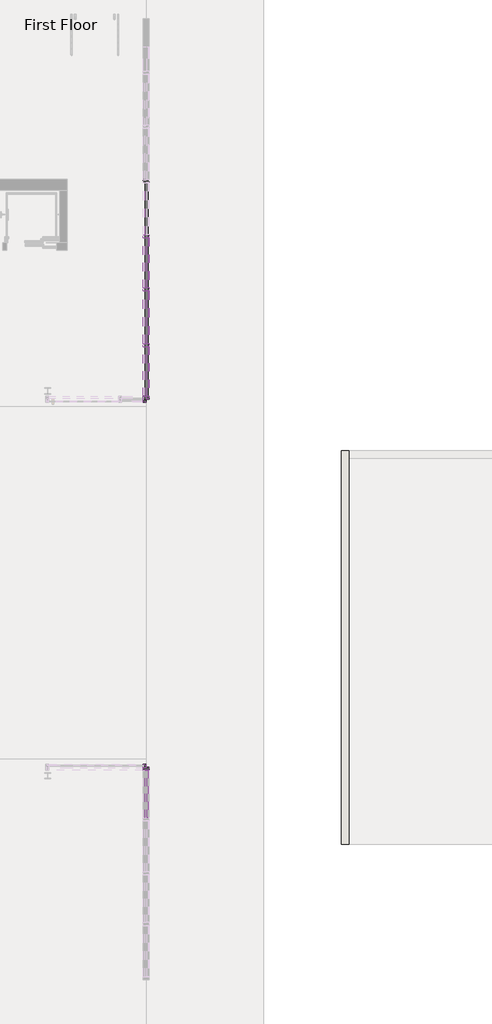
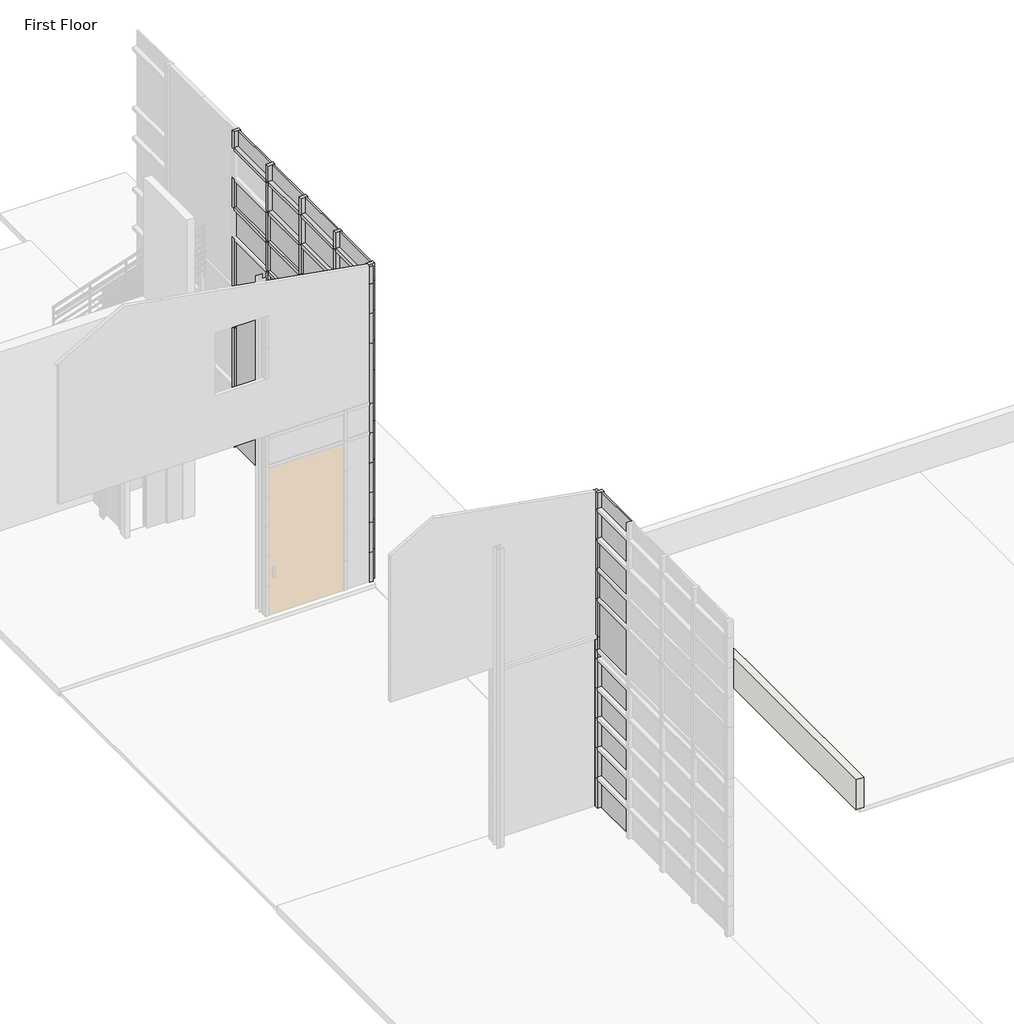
# One storey, part 7 of 9: 81 members, 31 plates, 1 wall.
"""IFC4 building model written with IfcOpenShell, lengths in millimetres."""

from ifc_helpers import new_model, si_unit, origin, place, context, project, spatial, faceted_brep, transform, mapped, element, save
from components import rectangular_mullion_rectangular_mullion_1_92345d6c, rectangular_mullion_rectangular_mullion_1_1b5fb080, rectangular_mullion_rectangular_mullion_1_005b3240, rectangular_mullion_rectangular_mullion_1_a5d18ad9, rectangular_mullion_rectangular_mullion_1_b6725e6c, rectangular_mullion_rectangular_mullion_1_857a2d2f, rectangular_mullion_rectangular_mullion_1_8c062b62, rectangular_mullion_rectangular_mullion_1_8a9972a7, rectangular_mullion_rectangular_mullion_1_0c9537f6, rectangular_mullion_rectangular_mullion_1_92001cf6, rectangular_mullion_rectangular_mullion_1_4e56fbd5, rectangular_mullion_rectangular_mullion_1_8c79227d, rectangular_mullion_rectangular_mullion_1_871cc721, rectangular_mullion_rectangular_mullion_1_1cede359, rectangular_mullion_rectangular_mullion_1_2b49869a, rectangular_mullion_rectangular_mullion_1_6e77e263, rectangular_mullion_rectangular_mullion_1_47bfaf8a, rectangular_mullion_rectangular_mullion_1_8ba1deb4, rectangular_mullion_rectangular_mullion_1_02b6d1f6, rectangular_mullion_rectangular_mullion_1_448be1d6, rectangular_mullion_rectangular_mullion_1_75074519, rectangular_mullion_rectangular_mullion_1_239af10d, system_panel_glazed_ad6731cb, system_panel_glazed_1dde7ef2, system_panel_glazed_8867470d, system_panel_glazed_5c61df2e, system_panel_glazed_041fdfaf, system_panel_glazed_9e465c3d, system_panel_glazed_ae41f1da, system_panel_glazed_664bf825, system_panel_glazed_7b94d85b, system_panel_glazed_cd8bb020, system_panel_glazed_b0dd7fbc, system_panel_solid_white_78c88414, system_panel_solid_white_2246336a, system_panel_solid_white_0ba96157, system_panel_solid_white_3c1d9ba8, system_panel_solid_white_dc60b1bb, system_panel_solid_white_98641b7f, system_panel_solid_white_af15567d, system_panel_wood_6bb835ee, system_panel_wood_cbf360d3, system_panel_wood_be4c5c0b, system_panel_wood_713b1532

model = new_model("IFC4")

# Units and contexts
model_context = context("Model", 3, world=origin())
ifc_project = project(units=[si_unit("LENGTHUNIT", "METRE", prefix="MILLI")], contexts=[model_context])

# Site, building, storey
site = spatial("IfcSite", under=ifc_project)
building = spatial("IfcBuilding", under=site)
storey = spatial("IfcBuildingStorey", under=building, Name="First Floor", Elevation=0.0)

# Members
placement = place(None, origin())
rectangular_mullion_rectangular_mullion_1_shape = rectangular_mullion_rectangular_mullion_1_92345d6c(model_context)
element("IfcMember", 1, ObjectType="Rectangular Mullion : Rectangular Mullion 1", at=placement, inside=storey, context=model_context, shape_type="MappedRepresentation", body=[
    mapped(rectangular_mullion_rectangular_mullion_1_shape, transform((8.2598336, 26645.6784583, 3192.0391834), x_axis=(0.0, 1.0, 0.0), y_axis=(1.0, 0.0, 0.0), z_axis=(0.0, 0.0, -1.0))),
])
element("IfcMember", 2, ObjectType="Rectangular Mullion : Rectangular Mullion 1", at=placement, inside=storey, context=model_context, shape_type="MappedRepresentation", body=[
    mapped(rectangular_mullion_rectangular_mullion_1_shape, transform((8.2598336, 25489.3434583, 3192.0391834), x_axis=(0.0, 1.0, 0.0), y_axis=(1.0, 0.0, 0.0), z_axis=(0.0, 0.0, -1.0))),
])
element("IfcMember", 3, ObjectType="Rectangular Mullion : Rectangular Mullion 1", at=placement, inside=storey, context=model_context, shape_type="MappedRepresentation", body=[
    mapped(rectangular_mullion_rectangular_mullion_1_shape, transform((8.2598336, 27741.6884583, 3192.0391834), x_axis=(0.0, 1.0, 0.0), y_axis=(1.0, 0.0, 0.0), z_axis=(0.0, 0.0, -1.0))),
])
rectangular_mullion_rectangular_mullion_1_2_shape = rectangular_mullion_rectangular_mullion_1_1b5fb080(model_context)
element("IfcMember", 4, ObjectType="Rectangular Mullion : Rectangular Mullion 1", at=placement, inside=storey, context=model_context, shape_type="MappedRepresentation", body=[
    mapped(rectangular_mullion_rectangular_mullion_1_2_shape, transform((8.2598336, 28888.4984583, 3223.7891834), x_axis=(0.0, 1.0, 0.0), y_axis=(1.0, 0.0, 0.0), z_axis=(0.0, 0.0, -1.0))),
])
rectangular_mullion_rectangular_mullion_1_3_shape = rectangular_mullion_rectangular_mullion_1_005b3240(model_context)
element("IfcMember", 5, ObjectType="Rectangular Mullion : Rectangular Mullion 1", at=placement, inside=storey, context=model_context, shape_type="MappedRepresentation", body=[
    mapped(rectangular_mullion_rectangular_mullion_1_3_shape, transform((8.2598336, 25489.3434583, 6096.0), x_axis=(0.0, 1.0, 0.0), y_axis=(1.0, 0.0, 0.0), z_axis=(0.0, 0.0, -1.0))),
])
element("IfcMember", 6, ObjectType="Rectangular Mullion : Rectangular Mullion 1", at=placement, inside=storey, context=model_context, shape_type="MappedRepresentation", body=[
    mapped(rectangular_mullion_rectangular_mullion_1_3_shape, transform((8.2598336, 26645.6784583, 6096.0), x_axis=(0.0, 1.0, 0.0), y_axis=(1.0, 0.0, 0.0), z_axis=(0.0, 0.0, -1.0))),
])
element("IfcMember", 7, ObjectType="Rectangular Mullion : Rectangular Mullion 1", at=placement, inside=storey, context=model_context, shape_type="MappedRepresentation", body=[
    mapped(rectangular_mullion_rectangular_mullion_1_3_shape, transform((8.2598336, 27741.6884583, 6096.0), x_axis=(0.0, 1.0, 0.0), y_axis=(1.0, 0.0, 0.0), z_axis=(0.0, 0.0, -1.0))),
])
element("IfcMember", 8, ObjectType="Rectangular Mullion : Rectangular Mullion 1", at=placement, inside=storey, context=model_context, shape_type="MappedRepresentation", body=[
    mapped(rectangular_mullion_rectangular_mullion_1_3_shape, transform((8.2598336, 28888.4984583, 6096.0), x_axis=(0.0, 1.0, 0.0), y_axis=(1.0, 0.0, 0.0), z_axis=(0.0, 0.0, -1.0))),
])
rectangular_mullion_rectangular_mullion_1_4_shape = rectangular_mullion_rectangular_mullion_1_a5d18ad9(model_context)
element("IfcMember", 9, ObjectType="Rectangular Mullion : Rectangular Mullion 1", at=placement, inside=storey, context=model_context, shape_type="MappedRepresentation", body=[
    mapped(rectangular_mullion_rectangular_mullion_1_4_shape, transform((8.2598336, 28888.4984583, 2438.4), x_axis=(0.0, 1.0, 0.0), y_axis=(1.0, 0.0, 0.0), z_axis=(0.0, 0.0, -1.0))),
])
rectangular_mullion_rectangular_mullion_1_5_shape = rectangular_mullion_rectangular_mullion_1_b6725e6c(model_context)
element("IfcMember", 10, ObjectType="Rectangular Mullion : Rectangular Mullion 1", at=placement, inside=storey, context=model_context, shape_type="MappedRepresentation", body=[
    mapped(rectangular_mullion_rectangular_mullion_1_5_shape, transform((8.2598336, 24371.1084583, 3223.7891834), x_axis=(0.0, -1.0, 0.0), y_axis=(1.0, 0.0, 0.0), z_axis=(0.0, 0.0, 1.0))),
])
rectangular_mullion_rectangular_mullion_1_6_shape = rectangular_mullion_rectangular_mullion_1_857a2d2f(model_context)
element("IfcMember", 11, ObjectType="Rectangular Mullion : Rectangular Mullion 1", at=placement, inside=storey, context=model_context, shape_type="MappedRepresentation", body=[
    mapped(rectangular_mullion_rectangular_mullion_1_6_shape, transform((8.2598336, 24371.1084583, 6447.5783668), x_axis=(0.0, -1.0, 0.0), y_axis=(1.0, 0.0, 0.0), z_axis=(0.0, 0.0, 1.0))),
])
rectangular_mullion_rectangular_mullion_1_7_shape = rectangular_mullion_rectangular_mullion_1_8c062b62(model_context)
element("IfcMember", 12, ObjectType="Rectangular Mullion : Rectangular Mullion 1", at=placement, inside=storey, context=model_context, shape_type="MappedRepresentation", body=[
    mapped(rectangular_mullion_rectangular_mullion_1_7_shape, transform((8.2598336, 24371.1084583, 4267.2), x_axis=(0.0, -1.0, 0.0), y_axis=(1.0, 0.0, 0.0), z_axis=(0.0, 0.0, 1.0))),
])
element("IfcMember", 13, ObjectType="Rectangular Mullion : Rectangular Mullion 1", at=placement, inside=storey, context=model_context, shape_type="MappedRepresentation", body=[
    mapped(rectangular_mullion_rectangular_mullion_1_6_shape, transform((8.2598336, 24371.1084583, 6096.0), x_axis=(1.0, 0.0, 0.0), y_axis=(0.0, -1.0, 0.0), z_axis=(0.0, 0.0, -1.0))),
])
rectangular_mullion_rectangular_mullion_1_8_shape = rectangular_mullion_rectangular_mullion_1_8a9972a7(model_context)
element("IfcMember", 14, ObjectType="Rectangular Mullion : Rectangular Mullion 1", at=placement, inside=storey, context=model_context, shape_type="MappedRepresentation", body=[
    mapped(rectangular_mullion_rectangular_mullion_1_8_shape, transform((8.2598336, 24371.1084583, 3048.0), x_axis=(1.0, 0.0, 0.0), y_axis=(0.0, -1.0, 0.0), z_axis=(0.0, 0.0, -1.0))),
])
rectangular_mullion_rectangular_mullion_1_9_shape = rectangular_mullion_rectangular_mullion_1_0c9537f6(model_context)
element("IfcMember", 15, ObjectType="Rectangular Mullion : Rectangular Mullion 1", at=placement, inside=storey, context=model_context, shape_type="MappedRepresentation", body=[
    mapped(rectangular_mullion_rectangular_mullion_1_9_shape, transform((8.2598336, 24371.1084583, 3647.5475583), x_axis=(1.0, 0.0, 0.0), y_axis=(0.0, -1.0, 0.0), z_axis=(0.0, 0.0, -1.0))),
])
rectangular_mullion_rectangular_mullion_1_10_shape = rectangular_mullion_rectangular_mullion_1_92001cf6(model_context)
element("IfcMember", 16, ObjectType="Rectangular Mullion : Rectangular Mullion 1", at=placement, inside=storey, context=model_context, shape_type="MappedRepresentation", body=[
    mapped(rectangular_mullion_rectangular_mullion_1_10_shape, transform((8.2598336, 16751.1084583, 3501.4973635), x_axis=(1.0, 0.0, 0.0), y_axis=(0.0, -1.0, 0.0), z_axis=(0.0, 0.0, -1.0))),
])
rectangular_mullion_rectangular_mullion_1_11_shape = rectangular_mullion_rectangular_mullion_1_4e56fbd5(model_context)
element("IfcMember", 17, ObjectType="Rectangular Mullion : Rectangular Mullion 1", at=placement, inside=storey, context=model_context, shape_type="MappedRepresentation", body=[
    mapped(rectangular_mullion_rectangular_mullion_1_11_shape, transform((8.2598336, 16751.1084583, 3048.0), x_axis=(1.0, 0.0, 0.0), y_axis=(0.0, -1.0, 0.0), z_axis=(0.0, 0.0, -1.0))),
])
rectangular_mullion_rectangular_mullion_1_12_shape = rectangular_mullion_rectangular_mullion_1_8c79227d(model_context)
element("IfcMember", 18, ObjectType="Rectangular Mullion : Rectangular Mullion 1", at=placement, inside=storey, context=model_context, shape_type="MappedRepresentation", body=[
    mapped(rectangular_mullion_rectangular_mullion_1_12_shape, transform((8.2598336, 16751.1084583, 3219.3104781), x_axis=(0.0, 1.0, 0.0), y_axis=(-1.0, 0.0, 0.0), z_axis=(0.0, 0.0, 1.0))),
])
rectangular_mullion_rectangular_mullion_1_13_shape = rectangular_mullion_rectangular_mullion_1_871cc721(model_context)
element("IfcMember", 19, ObjectType="Rectangular Mullion : Rectangular Mullion 1", at=placement, inside=storey, context=model_context, shape_type="MappedRepresentation", body=[
    mapped(rectangular_mullion_rectangular_mullion_1_13_shape, transform((8.2598336, 16751.1084583, 4267.2), x_axis=(0.0, 1.0, 0.0), y_axis=(-1.0, 0.0, 0.0), z_axis=(0.0, 0.0, 1.0))),
])
rectangular_mullion_rectangular_mullion_1_14_shape = rectangular_mullion_rectangular_mullion_1_1cede359(model_context)
element("IfcMember", 20, ObjectType="Rectangular Mullion : Rectangular Mullion 1", at=placement, inside=storey, context=model_context, shape_type="MappedRepresentation", body=[
    mapped(rectangular_mullion_rectangular_mullion_1_14_shape, transform((8.2598336, 16751.1084583, 6438.6209562), x_axis=(0.0, 1.0, 0.0), y_axis=(-1.0, 0.0, 0.0), z_axis=(0.0, 0.0, 1.0))),
])
element("IfcMember", 21, ObjectType="Rectangular Mullion : Rectangular Mullion 1", at=placement, inside=storey, context=model_context, shape_type="MappedRepresentation", body=[
    mapped(rectangular_mullion_rectangular_mullion_1_14_shape, transform((8.2598336, 16751.1084583, 6096.0), x_axis=(1.0, 0.0, 0.0), y_axis=(0.0, -1.0, 0.0), z_axis=(0.0, 0.0, -1.0))),
])
rectangular_mullion_rectangular_mullion_1_15_shape = rectangular_mullion_rectangular_mullion_1_2b49869a(model_context)
element("IfcMember", 22, ObjectType="Rectangular Mullion : Rectangular Mullion 1", at=placement, inside=storey, context=model_context, shape_type="MappedRepresentation", body=[
    mapped(rectangular_mullion_rectangular_mullion_1_15_shape, transform((8.2598336, 28888.4984583, 1219.2), x_axis=(0.0, 1.0, 0.0), y_axis=(1.0, 0.0, 0.0), z_axis=(0.0, 0.0, -1.0))),
])
rectangular_mullion_rectangular_mullion_1_16_shape = rectangular_mullion_rectangular_mullion_1_6e77e263(model_context)
element("IfcMember", 23, ObjectType="Rectangular Mullion : Rectangular Mullion 1", at=placement, inside=storey, context=model_context, shape_type="MappedRepresentation", body=[
    mapped(rectangular_mullion_rectangular_mullion_1_16_shape, transform((8.2598336, 28888.4984583, 0.0), x_axis=(0.0, 1.0, 0.0), y_axis=(1.0, 0.0, 0.0), z_axis=(0.0, 0.0, -1.0))),
])
element("IfcMember", 24, ObjectType="Rectangular Mullion : Rectangular Mullion 1", at=placement, inside=storey, context=model_context, shape_type="MappedRepresentation", body=[
    mapped(rectangular_mullion_rectangular_mullion_1_16_shape, transform((8.2598336, 25489.3434583, 4876.8), x_axis=(0.0, 1.0, 0.0), y_axis=(1.0, 0.0, 0.0), z_axis=(0.0, 0.0, -1.0))),
])
element("IfcMember", 25, ObjectType="Rectangular Mullion : Rectangular Mullion 1", at=placement, inside=storey, context=model_context, shape_type="MappedRepresentation", body=[
    mapped(rectangular_mullion_rectangular_mullion_1_16_shape, transform((8.2598336, 26645.6784583, 4876.8), x_axis=(0.0, 1.0, 0.0), y_axis=(1.0, 0.0, 0.0), z_axis=(0.0, 0.0, -1.0))),
])
element("IfcMember", 26, ObjectType="Rectangular Mullion : Rectangular Mullion 1", at=placement, inside=storey, context=model_context, shape_type="MappedRepresentation", body=[
    mapped(rectangular_mullion_rectangular_mullion_1_16_shape, transform((8.2598336, 27741.6884583, 4876.8), x_axis=(0.0, 1.0, 0.0), y_axis=(1.0, 0.0, 0.0), z_axis=(0.0, 0.0, -1.0))),
])
element("IfcMember", 27, ObjectType="Rectangular Mullion : Rectangular Mullion 1", at=placement, inside=storey, context=model_context, shape_type="MappedRepresentation", body=[
    mapped(rectangular_mullion_rectangular_mullion_1_16_shape, transform((8.2598336, 28888.4984583, 4876.8), x_axis=(0.0, 1.0, 0.0), y_axis=(1.0, 0.0, 0.0), z_axis=(0.0, 0.0, -1.0))),
])
element("IfcMember", 28, ObjectType="Rectangular Mullion : Rectangular Mullion 1", at=placement, inside=storey, context=model_context, shape_type="MappedRepresentation", body=[
    mapped(rectangular_mullion_rectangular_mullion_1_16_shape, transform((8.2598336, 28888.4984583, 609.6), x_axis=(0.0, 1.0, 0.0), y_axis=(1.0, 0.0, 0.0), z_axis=(0.0, 0.0, -1.0))),
])
element("IfcMember", 29, ObjectType="Rectangular Mullion : Rectangular Mullion 1", at=placement, inside=storey, context=model_context, shape_type="MappedRepresentation", body=[
    mapped(rectangular_mullion_rectangular_mullion_1_16_shape, transform((8.2598336, 25489.3434583, 4267.2), x_axis=(0.0, 1.0, 0.0), y_axis=(1.0, 0.0, 0.0), z_axis=(0.0, 0.0, -1.0))),
])
element("IfcMember", 30, ObjectType="Rectangular Mullion : Rectangular Mullion 1", at=placement, inside=storey, context=model_context, shape_type="MappedRepresentation", body=[
    mapped(rectangular_mullion_rectangular_mullion_1_16_shape, transform((8.2598336, 26645.6784583, 4267.2), x_axis=(0.0, 1.0, 0.0), y_axis=(1.0, 0.0, 0.0), z_axis=(0.0, 0.0, -1.0))),
])
element("IfcMember", 31, ObjectType="Rectangular Mullion : Rectangular Mullion 1", at=placement, inside=storey, context=model_context, shape_type="MappedRepresentation", body=[
    mapped(rectangular_mullion_rectangular_mullion_1_16_shape, transform((8.2598336, 27741.6884583, 4267.2), x_axis=(0.0, 1.0, 0.0), y_axis=(1.0, 0.0, 0.0), z_axis=(0.0, 0.0, -1.0))),
])
element("IfcMember", 32, ObjectType="Rectangular Mullion : Rectangular Mullion 1", at=placement, inside=storey, context=model_context, shape_type="MappedRepresentation", body=[
    mapped(rectangular_mullion_rectangular_mullion_1_16_shape, transform((8.2598336, 25489.3434583, 5486.4), x_axis=(0.0, 1.0, 0.0), y_axis=(1.0, 0.0, 0.0), z_axis=(0.0, 0.0, -1.0))),
])
element("IfcMember", 33, ObjectType="Rectangular Mullion : Rectangular Mullion 1", at=placement, inside=storey, context=model_context, shape_type="MappedRepresentation", body=[
    mapped(rectangular_mullion_rectangular_mullion_1_16_shape, transform((8.2598336, 26645.6784583, 5486.4), x_axis=(0.0, 1.0, 0.0), y_axis=(1.0, 0.0, 0.0), z_axis=(0.0, 0.0, -1.0))),
])
element("IfcMember", 34, ObjectType="Rectangular Mullion : Rectangular Mullion 1", at=placement, inside=storey, context=model_context, shape_type="MappedRepresentation", body=[
    mapped(rectangular_mullion_rectangular_mullion_1_16_shape, transform((8.2598336, 27741.6884583, 5486.4), x_axis=(0.0, 1.0, 0.0), y_axis=(1.0, 0.0, 0.0), z_axis=(0.0, 0.0, -1.0))),
])
rectangular_mullion_rectangular_mullion_1_17_shape = rectangular_mullion_rectangular_mullion_1_47bfaf8a(model_context)
element("IfcMember", 35, ObjectType="Rectangular Mullion : Rectangular Mullion 1", at=placement, inside=storey, context=model_context, shape_type="MappedRepresentation", body=[
    mapped(rectangular_mullion_rectangular_mullion_1_17_shape, transform((8.2598336, 16751.1084583, 2438.4), x_axis=(0.0, 1.0, 0.0), y_axis=(-1.0, 0.0, 0.0), z_axis=(0.0, 0.0, 1.0))),
])
element("IfcMember", 36, ObjectType="Rectangular Mullion : Rectangular Mullion 1", at=placement, inside=storey, context=model_context, shape_type="MappedRepresentation", body=[
    mapped(rectangular_mullion_rectangular_mullion_1_17_shape, transform((8.2598336, 16751.1084583, 1219.2), x_axis=(0.0, 1.0, 0.0), y_axis=(-1.0, 0.0, 0.0), z_axis=(0.0, 0.0, 1.0))),
])
element("IfcMember", 37, ObjectType="Rectangular Mullion : Rectangular Mullion 1", at=placement, inside=storey, context=model_context, shape_type="MappedRepresentation", body=[
    mapped(rectangular_mullion_rectangular_mullion_1_17_shape, transform((8.2598336, 16751.1084583, 5486.4), x_axis=(0.0, 1.0, 0.0), y_axis=(-1.0, 0.0, 0.0), z_axis=(0.0, 0.0, 1.0))),
])
element("IfcMember", 38, ObjectType="Rectangular Mullion : Rectangular Mullion 1", at=placement, inside=storey, context=model_context, shape_type="MappedRepresentation", body=[
    mapped(rectangular_mullion_rectangular_mullion_1_17_shape, transform((8.2598336, 16751.1084583, 4876.8), x_axis=(0.0, 1.0, 0.0), y_axis=(-1.0, 0.0, 0.0), z_axis=(0.0, 0.0, 1.0))),
])
element("IfcMember", 39, ObjectType="Rectangular Mullion : Rectangular Mullion 1", at=placement, inside=storey, context=model_context, shape_type="MappedRepresentation", body=[
    mapped(rectangular_mullion_rectangular_mullion_1_17_shape, transform((8.2598336, 16751.1084583, 6096.0), x_axis=(0.0, 1.0, 0.0), y_axis=(-1.0, 0.0, 0.0), z_axis=(0.0, 0.0, 1.0))),
])
element("IfcMember", 40, ObjectType="Rectangular Mullion : Rectangular Mullion 1", at=placement, inside=storey, context=model_context, shape_type="MappedRepresentation", body=[
    mapped(rectangular_mullion_rectangular_mullion_1_17_shape, transform((8.2598336, 16751.1084583, 3048.0), x_axis=(0.0, 1.0, 0.0), y_axis=(-1.0, 0.0, 0.0), z_axis=(0.0, 0.0, 1.0))),
])
element("IfcMember", 41, ObjectType="Rectangular Mullion : Rectangular Mullion 1", at=placement, inside=storey, context=model_context, shape_type="MappedRepresentation", body=[
    mapped(rectangular_mullion_rectangular_mullion_1_17_shape, transform((8.2598336, 16751.1084583, 1828.8), x_axis=(0.0, 1.0, 0.0), y_axis=(-1.0, 0.0, 0.0), z_axis=(0.0, 0.0, 1.0))),
])
element("IfcMember", 42, ObjectType="Rectangular Mullion : Rectangular Mullion 1", at=placement, inside=storey, context=model_context, shape_type="MappedRepresentation", body=[
    mapped(rectangular_mullion_rectangular_mullion_1_17_shape, transform((8.2598336, 16751.1084583, 609.6), x_axis=(0.0, 1.0, 0.0), y_axis=(-1.0, 0.0, 0.0), z_axis=(0.0, 0.0, 1.0))),
])
element("IfcMember", 43, ObjectType="Rectangular Mullion : Rectangular Mullion 1", at=placement, inside=storey, context=model_context, shape_type="MappedRepresentation", body=[
    mapped(rectangular_mullion_rectangular_mullion_1_17_shape, transform((8.2598336, 16751.1084583, 609.6), x_axis=(1.0, 0.0, 0.0), y_axis=(0.0, -1.0, 0.0), z_axis=(0.0, 0.0, -1.0))),
])
element("IfcMember", 44, ObjectType="Rectangular Mullion : Rectangular Mullion 1", at=placement, inside=storey, context=model_context, shape_type="MappedRepresentation", body=[
    mapped(rectangular_mullion_rectangular_mullion_1_17_shape, transform((8.2598336, 16751.1084583, 1828.8), x_axis=(1.0, 0.0, 0.0), y_axis=(0.0, -1.0, 0.0), z_axis=(0.0, 0.0, -1.0))),
])
element("IfcMember", 45, ObjectType="Rectangular Mullion : Rectangular Mullion 1", at=placement, inside=storey, context=model_context, shape_type="MappedRepresentation", body=[
    mapped(rectangular_mullion_rectangular_mullion_1_17_shape, transform((8.2598336, 16751.1084583, 1219.2), x_axis=(1.0, 0.0, 0.0), y_axis=(0.0, -1.0, 0.0), z_axis=(0.0, 0.0, -1.0))),
])
element("IfcMember", 46, ObjectType="Rectangular Mullion : Rectangular Mullion 1", at=placement, inside=storey, context=model_context, shape_type="MappedRepresentation", body=[
    mapped(rectangular_mullion_rectangular_mullion_1_17_shape, transform((8.2598336, 16751.1084583, 2438.4), x_axis=(1.0, 0.0, 0.0), y_axis=(0.0, -1.0, 0.0), z_axis=(0.0, 0.0, -1.0))),
])
element("IfcMember", 47, ObjectType="Rectangular Mullion : Rectangular Mullion 1", at=placement, inside=storey, context=model_context, shape_type="MappedRepresentation", body=[
    mapped(rectangular_mullion_rectangular_mullion_1_17_shape, transform((8.2598336, 16751.1084583, 4267.2), x_axis=(1.0, 0.0, 0.0), y_axis=(0.0, -1.0, 0.0), z_axis=(0.0, 0.0, -1.0))),
])
element("IfcMember", 48, ObjectType="Rectangular Mullion : Rectangular Mullion 1", at=placement, inside=storey, context=model_context, shape_type="MappedRepresentation", body=[
    mapped(rectangular_mullion_rectangular_mullion_1_17_shape, transform((8.2598336, 16751.1084583, 5486.4), x_axis=(1.0, 0.0, 0.0), y_axis=(0.0, -1.0, 0.0), z_axis=(0.0, 0.0, -1.0))),
])
element("IfcMember", 49, ObjectType="Rectangular Mullion : Rectangular Mullion 1", at=placement, inside=storey, context=model_context, shape_type="MappedRepresentation", body=[
    mapped(rectangular_mullion_rectangular_mullion_1_17_shape, transform((8.2598336, 16751.1084583, 4876.8), x_axis=(1.0, 0.0, 0.0), y_axis=(0.0, -1.0, 0.0), z_axis=(0.0, 0.0, -1.0))),
])
element("IfcMember", 50, ObjectType="Rectangular Mullion : Rectangular Mullion 1", at=placement, inside=storey, context=model_context, shape_type="MappedRepresentation", body=[
    mapped(rectangular_mullion_rectangular_mullion_1_17_shape, transform((8.2598336, 24371.1084583, 1219.2), x_axis=(0.0, -1.0, 0.0), y_axis=(1.0, 0.0, 0.0), z_axis=(0.0, 0.0, 1.0))),
])
element("IfcMember", 51, ObjectType="Rectangular Mullion : Rectangular Mullion 1", at=placement, inside=storey, context=model_context, shape_type="MappedRepresentation", body=[
    mapped(rectangular_mullion_rectangular_mullion_1_17_shape, transform((8.2598336, 24371.1084583, 609.6), x_axis=(0.0, -1.0, 0.0), y_axis=(1.0, 0.0, 0.0), z_axis=(0.0, 0.0, 1.0))),
])
rectangular_mullion_rectangular_mullion_1_18_shape = rectangular_mullion_rectangular_mullion_1_8ba1deb4(model_context)
element("IfcMember", 52, ObjectType="Rectangular Mullion : Rectangular Mullion 1", at=placement, inside=storey, context=model_context, shape_type="MappedRepresentation", body=[
    mapped(rectangular_mullion_rectangular_mullion_1_18_shape, transform((8.2598336, 27709.9384583, 3223.7891834), x_axis=(0.0, 0.0, 1.0), y_axis=(1.0, 0.0, 0.0), z_axis=(0.0, 1.0, 0.0))),
])
element("IfcMember", 53, ObjectType="Rectangular Mullion : Rectangular Mullion 1", at=placement, inside=storey, context=model_context, shape_type="MappedRepresentation", body=[
    mapped(rectangular_mullion_rectangular_mullion_1_18_shape, transform((8.2598336, 27709.9384583, 6096.0), x_axis=(0.0, 0.0, 1.0), y_axis=(1.0, 0.0, 0.0), z_axis=(0.0, 1.0, 0.0))),
])
element("IfcMember", 54, ObjectType="Rectangular Mullion : Rectangular Mullion 1", at=placement, inside=storey, context=model_context, shape_type="MappedRepresentation", body=[
    mapped(rectangular_mullion_rectangular_mullion_1_18_shape, transform((8.2598336, 27709.9384583, 4876.8), x_axis=(0.0, 0.0, 1.0), y_axis=(1.0, 0.0, 0.0), z_axis=(0.0, 1.0, 0.0))),
])
element("IfcMember", 55, ObjectType="Rectangular Mullion : Rectangular Mullion 1", at=placement, inside=storey, context=model_context, shape_type="MappedRepresentation", body=[
    mapped(rectangular_mullion_rectangular_mullion_1_18_shape, transform((8.2598336, 27709.9384583, 4267.2), x_axis=(0.0, 0.0, 1.0), y_axis=(1.0, 0.0, 0.0), z_axis=(0.0, 1.0, 0.0))),
])
element("IfcMember", 56, ObjectType="Rectangular Mullion : Rectangular Mullion 1", at=placement, inside=storey, context=model_context, shape_type="MappedRepresentation", body=[
    mapped(rectangular_mullion_rectangular_mullion_1_18_shape, transform((8.2598336, 27709.9384583, 5486.4), x_axis=(0.0, 0.0, 1.0), y_axis=(1.0, 0.0, 0.0), z_axis=(0.0, 1.0, 0.0))),
])
rectangular_mullion_rectangular_mullion_1_19_shape = rectangular_mullion_rectangular_mullion_1_02b6d1f6(model_context)
element("IfcMember", 57, ObjectType="Rectangular Mullion : Rectangular Mullion 1", at=placement, inside=storey, context=model_context, shape_type="MappedRepresentation", body=[
    mapped(rectangular_mullion_rectangular_mullion_1_19_shape, transform((8.2598336, 28856.7484583, 3223.7891834), x_axis=(0.0, 0.0, 1.0), y_axis=(1.0, 0.0, 0.0), z_axis=(0.0, 1.0, 0.0))),
])
element("IfcMember", 58, ObjectType="Rectangular Mullion : Rectangular Mullion 1", at=placement, inside=storey, context=model_context, shape_type="MappedRepresentation", body=[
    mapped(rectangular_mullion_rectangular_mullion_1_19_shape, transform((8.2598336, 28856.7484583, 6096.0), x_axis=(0.0, 0.0, 1.0), y_axis=(1.0, 0.0, 0.0), z_axis=(0.0, 1.0, 0.0))),
])
element("IfcMember", 59, ObjectType="Rectangular Mullion : Rectangular Mullion 1", at=placement, inside=storey, context=model_context, shape_type="MappedRepresentation", body=[
    mapped(rectangular_mullion_rectangular_mullion_1_19_shape, transform((8.2598336, 28856.7484583, 4876.8), x_axis=(0.0, 0.0, 1.0), y_axis=(1.0, 0.0, 0.0), z_axis=(0.0, 1.0, 0.0))),
])
rectangular_mullion_rectangular_mullion_1_20_shape = rectangular_mullion_rectangular_mullion_1_448be1d6(model_context)
element("IfcMember", 60, ObjectType="Rectangular Mullion : Rectangular Mullion 1", at=placement, inside=storey, context=model_context, shape_type="MappedRepresentation", body=[
    mapped(rectangular_mullion_rectangular_mullion_1_20_shape, transform((8.2598336, 25457.5934583, 3223.7891834), x_axis=(0.0, 0.0, 1.0), y_axis=(1.0, 0.0, 0.0), z_axis=(0.0, 1.0, 0.0))),
])
element("IfcMember", 61, ObjectType="Rectangular Mullion : Rectangular Mullion 1", at=placement, inside=storey, context=model_context, shape_type="MappedRepresentation", body=[
    mapped(rectangular_mullion_rectangular_mullion_1_20_shape, transform((8.2598336, 25457.5934583, 6096.0), x_axis=(0.0, 0.0, 1.0), y_axis=(1.0, 0.0, 0.0), z_axis=(0.0, 1.0, 0.0))),
])
element("IfcMember", 62, ObjectType="Rectangular Mullion : Rectangular Mullion 1", at=placement, inside=storey, context=model_context, shape_type="MappedRepresentation", body=[
    mapped(rectangular_mullion_rectangular_mullion_1_20_shape, transform((8.2598336, 25457.5934583, 4876.8), x_axis=(0.0, 0.0, 1.0), y_axis=(1.0, 0.0, 0.0), z_axis=(0.0, 1.0, 0.0))),
])
element("IfcMember", 63, ObjectType="Rectangular Mullion : Rectangular Mullion 1", at=placement, inside=storey, context=model_context, shape_type="MappedRepresentation", body=[
    mapped(rectangular_mullion_rectangular_mullion_1_20_shape, transform((8.2598336, 25457.5934583, 4267.2), x_axis=(0.0, 0.0, 1.0), y_axis=(1.0, 0.0, 0.0), z_axis=(0.0, 1.0, 0.0))),
])
element("IfcMember", 64, ObjectType="Rectangular Mullion : Rectangular Mullion 1", at=placement, inside=storey, context=model_context, shape_type="MappedRepresentation", body=[
    mapped(rectangular_mullion_rectangular_mullion_1_20_shape, transform((8.2598336, 25457.5934583, 5486.4), x_axis=(0.0, 0.0, 1.0), y_axis=(1.0, 0.0, 0.0), z_axis=(0.0, 1.0, 0.0))),
])
element("IfcMember", 65, ObjectType="Rectangular Mullion : Rectangular Mullion 1", at=placement, inside=storey, context=model_context, shape_type="MappedRepresentation", body=[
    mapped(rectangular_mullion_rectangular_mullion_1_17_shape, transform((8.2598336, 24371.1084583, 6096.0), x_axis=(0.0, -1.0, 0.0), y_axis=(1.0, 0.0, 0.0), z_axis=(0.0, 0.0, 1.0))),
])
element("IfcMember", 66, ObjectType="Rectangular Mullion : Rectangular Mullion 1", at=placement, inside=storey, context=model_context, shape_type="MappedRepresentation", body=[
    mapped(rectangular_mullion_rectangular_mullion_1_17_shape, transform((8.2598336, 24371.1084583, 5486.4), x_axis=(0.0, -1.0, 0.0), y_axis=(1.0, 0.0, 0.0), z_axis=(0.0, 0.0, 1.0))),
])
element("IfcMember", 67, ObjectType="Rectangular Mullion : Rectangular Mullion 1", at=placement, inside=storey, context=model_context, shape_type="MappedRepresentation", body=[
    mapped(rectangular_mullion_rectangular_mullion_1_17_shape, transform((8.2598336, 24371.1084583, 4876.8), x_axis=(0.0, -1.0, 0.0), y_axis=(1.0, 0.0, 0.0), z_axis=(0.0, 0.0, 1.0))),
])
rectangular_mullion_rectangular_mullion_1_21_shape = rectangular_mullion_rectangular_mullion_1_75074519(model_context)
element("IfcMember", 68, ObjectType="Rectangular Mullion : Rectangular Mullion 1", at=placement, inside=storey, context=model_context, shape_type="MappedRepresentation", body=[
    mapped(rectangular_mullion_rectangular_mullion_1_21_shape, transform((8.2598336, 24371.1084583, 2438.4), x_axis=(0.0, -1.0, 0.0), y_axis=(1.0, 0.0, 0.0), z_axis=(0.0, 0.0, 1.0))),
])
element("IfcMember", 69, ObjectType="Rectangular Mullion : Rectangular Mullion 1", at=placement, inside=storey, context=model_context, shape_type="MappedRepresentation", body=[
    mapped(rectangular_mullion_rectangular_mullion_1_17_shape, transform((8.2598336, 24371.1084583, 1219.2), x_axis=(1.0, 0.0, 0.0), y_axis=(0.0, -1.0, 0.0), z_axis=(0.0, 0.0, -1.0))),
])
element("IfcMember", 70, ObjectType="Rectangular Mullion : Rectangular Mullion 1", at=placement, inside=storey, context=model_context, shape_type="MappedRepresentation", body=[
    mapped(rectangular_mullion_rectangular_mullion_1_17_shape, transform((8.2598336, 24371.1084583, 609.6), x_axis=(1.0, 0.0, 0.0), y_axis=(0.0, -1.0, 0.0), z_axis=(0.0, 0.0, -1.0))),
])
element("IfcMember", 71, ObjectType="Rectangular Mullion : Rectangular Mullion 1", at=placement, inside=storey, context=model_context, shape_type="MappedRepresentation", body=[
    mapped(rectangular_mullion_rectangular_mullion_1_17_shape, transform((8.2598336, 24371.1084583, 5486.4), x_axis=(1.0, 0.0, 0.0), y_axis=(0.0, -1.0, 0.0), z_axis=(0.0, 0.0, -1.0))),
])
element("IfcMember", 72, ObjectType="Rectangular Mullion : Rectangular Mullion 1", at=placement, inside=storey, context=model_context, shape_type="MappedRepresentation", body=[
    mapped(rectangular_mullion_rectangular_mullion_1_17_shape, transform((8.2598336, 24371.1084583, 4876.8), x_axis=(1.0, 0.0, 0.0), y_axis=(0.0, -1.0, 0.0), z_axis=(0.0, 0.0, -1.0))),
])
element("IfcMember", 73, ObjectType="Rectangular Mullion : Rectangular Mullion 1", at=placement, inside=storey, context=model_context, shape_type="MappedRepresentation", body=[
    mapped(rectangular_mullion_rectangular_mullion_1_17_shape, transform((8.2598336, 24371.1084583, 1828.8), x_axis=(1.0, 0.0, 0.0), y_axis=(0.0, -1.0, 0.0), z_axis=(0.0, 0.0, -1.0))),
])
element("IfcMember", 74, ObjectType="Rectangular Mullion : Rectangular Mullion 1", at=placement, inside=storey, context=model_context, shape_type="MappedRepresentation", body=[
    mapped(rectangular_mullion_rectangular_mullion_1_17_shape, transform((8.2598336, 24371.1084583, 2438.4), x_axis=(1.0, 0.0, 0.0), y_axis=(0.0, -1.0, 0.0), z_axis=(0.0, 0.0, -1.0))),
])
element("IfcMember", 75, ObjectType="Rectangular Mullion : Rectangular Mullion 1", at=placement, inside=storey, context=model_context, shape_type="MappedRepresentation", body=[
    mapped(rectangular_mullion_rectangular_mullion_1_17_shape, transform((8.2598336, 24371.1084583, 0.0), x_axis=(1.0, 0.0, 0.0), y_axis=(0.0, -1.0, 0.0), z_axis=(0.0, 0.0, -1.0))),
])
element("IfcMember", 76, ObjectType="Rectangular Mullion : Rectangular Mullion 1", at=placement, inside=storey, context=model_context, shape_type="MappedRepresentation", body=[
    mapped(rectangular_mullion_rectangular_mullion_1_17_shape, transform((8.2598336, 16751.1084583, 0.0), x_axis=(1.0, 0.0, 0.0), y_axis=(0.0, -1.0, 0.0), z_axis=(0.0, 0.0, -1.0))),
])
rectangular_mullion_rectangular_mullion_1_22_shape = rectangular_mullion_rectangular_mullion_1_239af10d(model_context)
element("IfcMember", 77, ObjectType="Rectangular Mullion : Rectangular Mullion 1", at=placement, inside=storey, context=model_context, shape_type="MappedRepresentation", body=[
    mapped(rectangular_mullion_rectangular_mullion_1_22_shape, transform((8.2598336, 26613.9284583, 3223.7891834), x_axis=(0.0, 0.0, 1.0), y_axis=(1.0, 0.0, 0.0), z_axis=(0.0, 1.0, 0.0))),
])
element("IfcMember", 78, ObjectType="Rectangular Mullion : Rectangular Mullion 1", at=placement, inside=storey, context=model_context, shape_type="MappedRepresentation", body=[
    mapped(rectangular_mullion_rectangular_mullion_1_22_shape, transform((8.2598336, 26613.9284583, 6096.0), x_axis=(0.0, 0.0, 1.0), y_axis=(1.0, 0.0, 0.0), z_axis=(0.0, 1.0, 0.0))),
])
element("IfcMember", 79, ObjectType="Rectangular Mullion : Rectangular Mullion 1", at=placement, inside=storey, context=model_context, shape_type="MappedRepresentation", body=[
    mapped(rectangular_mullion_rectangular_mullion_1_22_shape, transform((8.2598336, 26613.9284583, 4876.8), x_axis=(0.0, 0.0, 1.0), y_axis=(1.0, 0.0, 0.0), z_axis=(0.0, 1.0, 0.0))),
])
element("IfcMember", 80, ObjectType="Rectangular Mullion : Rectangular Mullion 1", at=placement, inside=storey, context=model_context, shape_type="MappedRepresentation", body=[
    mapped(rectangular_mullion_rectangular_mullion_1_22_shape, transform((8.2598336, 26613.9284583, 4267.2), x_axis=(0.0, 0.0, 1.0), y_axis=(1.0, 0.0, 0.0), z_axis=(0.0, 1.0, 0.0))),
])
element("IfcMember", 81, ObjectType="Rectangular Mullion : Rectangular Mullion 1", at=placement, inside=storey, context=model_context, shape_type="MappedRepresentation", body=[
    mapped(rectangular_mullion_rectangular_mullion_1_22_shape, transform((8.2598336, 26613.9284583, 5486.4), x_axis=(0.0, 0.0, 1.0), y_axis=(1.0, 0.0, 0.0), z_axis=(0.0, 1.0, 0.0))),
])

# Plates
system_panel_glazed_shape = system_panel_glazed_ad6731cb(model_context)
element("IfcPlate", 82, ObjectType="System Panel : Glazed", at=placement, inside=storey, context=model_context, shape_type="MappedRepresentation", body=[
    mapped(system_panel_glazed_shape, transform((8.2598336, 24946.1009583, 6127.75), x_axis=(0.0, 1.0, 0.0), y_axis=(-1.0, 0.0, 0.0), z_axis=(0.0, 0.0, 1.0))),
])
system_panel_glazed_2_shape = system_panel_glazed_1dde7ef2(model_context)
element("IfcPlate", 83, ObjectType="System Panel : Glazed", at=placement, inside=storey, context=model_context, shape_type="MappedRepresentation", body=[
    mapped(system_panel_glazed_2_shape, transform((8.2598336, 26067.5109583, 6127.75), x_axis=(0.0, 1.0, 0.0), y_axis=(-1.0, 0.0, 0.0), z_axis=(0.0, 0.0, 1.0))),
])
system_panel_glazed_3_shape = system_panel_glazed_8867470d(model_context)
element("IfcPlate", 84, ObjectType="System Panel : Glazed", at=placement, inside=storey, context=model_context, shape_type="MappedRepresentation", body=[
    mapped(system_panel_glazed_3_shape, transform((8.2598336, 27193.6834583, 6127.75), x_axis=(0.0, 1.0, 0.0), y_axis=(-1.0, 0.0, 0.0), z_axis=(0.0, 0.0, 1.0))),
])
system_panel_glazed_4_shape = system_panel_glazed_5c61df2e(model_context)
element("IfcPlate", 85, ObjectType="System Panel : Glazed", at=placement, inside=storey, context=model_context, shape_type="MappedRepresentation", body=[
    mapped(system_panel_glazed_4_shape, transform((8.2598336, 28315.0934583, 6127.75), x_axis=(0.0, 1.0, 0.0), y_axis=(-1.0, 0.0, 0.0), z_axis=(0.0, 0.0, 1.0))),
])
system_panel_glazed_5_shape = system_panel_glazed_041fdfaf(model_context)
element("IfcPlate", 86, ObjectType="System Panel : Glazed", at=placement, inside=storey, context=model_context, shape_type="MappedRepresentation", body=[
    mapped(system_panel_glazed_5_shape, transform((8.2598336, 16196.6173869, 3079.75), x_axis=(0.0, -1.0, 0.0), y_axis=(1.0, 0.0, 0.0), z_axis=(0.0, 0.0, 1.0))),
])
system_panel_glazed_6_shape = system_panel_glazed_9e465c3d(model_context)
element("IfcPlate", 87, ObjectType="System Panel : Glazed", at=placement, inside=storey, context=model_context, shape_type="MappedRepresentation", body=[
    mapped(system_panel_glazed_6_shape, transform((8.2598336, 16196.6173869, 6127.75), x_axis=(0.0, -1.0, 0.0), y_axis=(1.0, 0.0, 0.0), z_axis=(0.0, 0.0, 1.0))),
])
system_panel_glazed_7_shape = system_panel_glazed_ae41f1da(model_context)
element("IfcPlate", 88, ObjectType="System Panel : Glazed", at=placement, inside=storey, context=model_context, shape_type="MappedRepresentation", body=[
    mapped(system_panel_glazed_7_shape, transform((8.2598336, 16196.6173869, 0.0), x_axis=(0.0, -1.0, 0.0), y_axis=(1.0, 0.0, 0.0), z_axis=(0.0, 0.0, 1.0))),
])
system_panel_glazed_8_shape = system_panel_glazed_664bf825(model_context)
element("IfcPlate", 89, ObjectType="System Panel : Glazed", at=placement, inside=storey, context=model_context, shape_type="MappedRepresentation", body=[
    mapped(system_panel_glazed_8_shape, transform((8.2598336, 16196.6173869, 2470.15), x_axis=(0.0, -1.0, 0.0), y_axis=(1.0, 0.0, 0.0), z_axis=(0.0, 0.0, 1.0))),
])
element("IfcPlate", 90, ObjectType="System Panel : Glazed", at=placement, inside=storey, context=model_context, shape_type="MappedRepresentation", body=[
    mapped(system_panel_glazed_8_shape, transform((8.2598336, 16196.6173869, 1250.95), x_axis=(0.0, -1.0, 0.0), y_axis=(1.0, 0.0, 0.0), z_axis=(0.0, 0.0, 1.0))),
])
element("IfcPlate", 91, ObjectType="System Panel : Glazed", at=placement, inside=storey, context=model_context, shape_type="MappedRepresentation", body=[
    mapped(system_panel_glazed_8_shape, transform((8.2598336, 16196.6173869, 1860.55), x_axis=(0.0, -1.0, 0.0), y_axis=(1.0, 0.0, 0.0), z_axis=(0.0, 0.0, 1.0))),
])
element("IfcPlate", 92, ObjectType="System Panel : Glazed", at=placement, inside=storey, context=model_context, shape_type="MappedRepresentation", body=[
    mapped(system_panel_glazed_8_shape, transform((8.2598336, 16196.6173869, 641.35), x_axis=(0.0, -1.0, 0.0), y_axis=(1.0, 0.0, 0.0), z_axis=(0.0, 0.0, 1.0))),
])
element("IfcPlate", 93, ObjectType="System Panel : Glazed", at=placement, inside=storey, context=model_context, shape_type="MappedRepresentation", body=[
    mapped(system_panel_glazed_8_shape, transform((8.2598336, 16196.6173869, 5518.15), x_axis=(0.0, -1.0, 0.0), y_axis=(1.0, 0.0, 0.0), z_axis=(0.0, 0.0, 1.0))),
])
system_panel_glazed_9_shape = system_panel_glazed_7b94d85b(model_context)
element("IfcPlate", 94, ObjectType="System Panel : Glazed", at=placement, inside=storey, context=model_context, shape_type="MappedRepresentation", body=[
    mapped(system_panel_glazed_9_shape, transform((8.2598336, 24946.1009583, 5518.15), x_axis=(0.0, 1.0, 0.0), y_axis=(-1.0, 0.0, 0.0), z_axis=(0.0, 0.0, 1.0))),
])
system_panel_glazed_10_shape = system_panel_glazed_cd8bb020(model_context)
element("IfcPlate", 95, ObjectType="System Panel : Glazed", at=placement, inside=storey, context=model_context, shape_type="MappedRepresentation", body=[
    mapped(system_panel_glazed_10_shape, transform((8.2598336, 26067.5109583, 5518.15), x_axis=(0.0, 1.0, 0.0), y_axis=(-1.0, 0.0, 0.0), z_axis=(0.0, 0.0, 1.0))),
])
system_panel_glazed_11_shape = system_panel_glazed_b0dd7fbc(model_context)
element("IfcPlate", 96, ObjectType="System Panel : Glazed", at=placement, inside=storey, context=model_context, shape_type="MappedRepresentation", body=[
    mapped(system_panel_glazed_11_shape, transform((8.2598336, 27193.6834583, 5518.15), x_axis=(0.0, 1.0, 0.0), y_axis=(-1.0, 0.0, 0.0), z_axis=(0.0, 0.0, 1.0))),
])
system_panel_solid_white_shape = system_panel_solid_white_78c88414(model_context)
element("IfcPlate", 97, ObjectType="System Panel : Solid - White", at=placement, inside=storey, context=model_context, shape_type="MappedRepresentation", body=[
    mapped(system_panel_solid_white_shape, transform((8.2598336, 26645.6784583, 0.0), x_axis=(0.0, 1.0, 0.0), y_axis=(-1.0, 0.0, 0.0), z_axis=(0.0, 0.0, 1.0))),
])
system_panel_solid_white_2_shape = system_panel_solid_white_2246336a(model_context)
element("IfcPlate", 98, ObjectType="System Panel : Solid - White", at=placement, inside=storey, context=model_context, shape_type="MappedRepresentation", body=[
    mapped(system_panel_solid_white_2_shape, transform((8.2598336, 24946.1009583, 3255.5391834), x_axis=(0.0, 1.0, 0.0), y_axis=(-1.0, 0.0, 0.0), z_axis=(0.0, 0.0, 1.0))),
])
system_panel_solid_white_3_shape = system_panel_solid_white_0ba96157(model_context)
element("IfcPlate", 99, ObjectType="System Panel : Solid - White", at=placement, inside=storey, context=model_context, shape_type="MappedRepresentation", body=[
    mapped(system_panel_solid_white_3_shape, transform((8.2598336, 27193.6834583, 3255.5391834), x_axis=(0.0, 1.0, 0.0), y_axis=(-1.0, 0.0, 0.0), z_axis=(0.0, 0.0, 1.0))),
])
system_panel_solid_white_4_shape = system_panel_solid_white_3c1d9ba8(model_context)
element("IfcPlate", 100, ObjectType="System Panel : Solid - White", at=placement, inside=storey, context=model_context, shape_type="MappedRepresentation", body=[
    mapped(system_panel_solid_white_4_shape, transform((8.2598336, 26067.5109583, 3255.5391834), x_axis=(0.0, 1.0, 0.0), y_axis=(-1.0, 0.0, 0.0), z_axis=(0.0, 0.0, 1.0))),
])
system_panel_solid_white_5_shape = system_panel_solid_white_dc60b1bb(model_context)
element("IfcPlate", 101, ObjectType="System Panel : Solid - White", at=placement, inside=storey, context=model_context, shape_type="MappedRepresentation", body=[
    mapped(system_panel_solid_white_5_shape, transform((8.2598336, 28315.0934583, 3255.5391834), x_axis=(0.0, 1.0, 0.0), y_axis=(-1.0, 0.0, 0.0), z_axis=(0.0, 0.0, 1.0))),
])
system_panel_solid_white_6_shape = system_panel_solid_white_98641b7f(model_context)
element("IfcPlate", 102, ObjectType="System Panel : Solid - White", at=placement, inside=storey, context=model_context, shape_type="MappedRepresentation", body=[
    mapped(system_panel_solid_white_6_shape, transform((8.2598336, 16196.6173869, 3251.0604781), x_axis=(0.0, -1.0, 0.0), y_axis=(1.0, 0.0, 0.0), z_axis=(0.0, 0.0, 1.0))),
])
system_panel_solid_white_7_shape = system_panel_solid_white_af15567d(model_context)
element("IfcPlate", 103, ObjectType="System Panel : Solid - White", at=placement, inside=storey, context=model_context, shape_type="MappedRepresentation", body=[
    mapped(system_panel_solid_white_7_shape, transform((8.2598336, 28315.0934583, 4908.55), x_axis=(0.0, 1.0, 0.0), y_axis=(-1.0, 0.0, 0.0), z_axis=(0.0, 0.0, 1.0))),
])
element("IfcPlate", 104, ObjectType="System Panel : Solid - White", at=placement, inside=storey, context=model_context, shape_type="MappedRepresentation", body=[
    mapped(system_panel_solid_white_7_shape, transform((8.2598336, 28315.0934583, 4298.95), x_axis=(0.0, 1.0, 0.0), y_axis=(-1.0, 0.0, 0.0), z_axis=(0.0, 0.0, 1.0))),
])
system_panel_wood_shape = system_panel_wood_6bb835ee(model_context)
element("IfcPlate", 105, ObjectType="System Panel : Wood", at=placement, inside=storey, context=model_context, shape_type="MappedRepresentation", body=[
    mapped(system_panel_wood_shape, transform((8.2598336, 24946.1009583, 4908.55), x_axis=(0.0, 1.0, 0.0), y_axis=(-1.0, 0.0, 0.0), z_axis=(0.0, 0.0, 1.0))),
])
element("IfcPlate", 106, ObjectType="System Panel : Wood", at=placement, inside=storey, context=model_context, shape_type="MappedRepresentation", body=[
    mapped(system_panel_wood_shape, transform((8.2598336, 24946.1009583, 4298.95), x_axis=(0.0, 1.0, 0.0), y_axis=(-1.0, 0.0, 0.0), z_axis=(0.0, 0.0, 1.0))),
])
system_panel_wood_2_shape = system_panel_wood_cbf360d3(model_context)
element("IfcPlate", 107, ObjectType="System Panel : Wood", at=placement, inside=storey, context=model_context, shape_type="MappedRepresentation", body=[
    mapped(system_panel_wood_2_shape, transform((8.2598336, 27193.6834583, 4908.55), x_axis=(0.0, 1.0, 0.0), y_axis=(-1.0, 0.0, 0.0), z_axis=(0.0, 0.0, 1.0))),
])
element("IfcPlate", 108, ObjectType="System Panel : Wood", at=placement, inside=storey, context=model_context, shape_type="MappedRepresentation", body=[
    mapped(system_panel_wood_2_shape, transform((8.2598336, 27193.6834583, 4298.95), x_axis=(0.0, 1.0, 0.0), y_axis=(-1.0, 0.0, 0.0), z_axis=(0.0, 0.0, 1.0))),
])
system_panel_wood_3_shape = system_panel_wood_be4c5c0b(model_context)
element("IfcPlate", 109, ObjectType="System Panel : Wood", at=placement, inside=storey, context=model_context, shape_type="MappedRepresentation", body=[
    mapped(system_panel_wood_3_shape, transform((8.2598336, 26067.5109583, 4908.55), x_axis=(0.0, 1.0, 0.0), y_axis=(-1.0, 0.0, 0.0), z_axis=(0.0, 0.0, 1.0))),
])
element("IfcPlate", 110, ObjectType="System Panel : Wood", at=placement, inside=storey, context=model_context, shape_type="MappedRepresentation", body=[
    mapped(system_panel_wood_3_shape, transform((8.2598336, 26067.5109583, 4298.95), x_axis=(0.0, 1.0, 0.0), y_axis=(-1.0, 0.0, 0.0), z_axis=(0.0, 0.0, 1.0))),
])
system_panel_wood_4_shape = system_panel_wood_713b1532(model_context)
element("IfcPlate", 111, ObjectType="System Panel : Wood", at=placement, inside=storey, context=model_context, shape_type="MappedRepresentation", body=[
    mapped(system_panel_wood_4_shape, transform((8.2598336, 16196.6173869, 4908.55), x_axis=(0.0, -1.0, 0.0), y_axis=(1.0, 0.0, 0.0), z_axis=(0.0, 0.0, 1.0))),
])
element("IfcPlate", 112, ObjectType="System Panel : Wood", at=placement, inside=storey, context=model_context, shape_type="MappedRepresentation", body=[
    mapped(system_panel_wood_4_shape, transform((8.2598336, 16196.6173869, 4298.95), x_axis=(0.0, -1.0, 0.0), y_axis=(1.0, 0.0, 0.0), z_axis=(0.0, 0.0, 1.0))),
])

# Wall
element("IfcWall", 113, ObjectType="Generic Wall - 6\" Wood", at=placement, inside=storey, context=model_context, shape_type="Brep", body=[
    faceted_brep([(4057.0309395, 23304.6704791, -533.4), (4057.0309395, 15151.2704791, -533.4), (4057.0309395, 15151.2704791, 76.2), (4057.0309395, 23304.6704791, 76.2), (4209.4309395, 23304.6704791, -533.4), (4209.4309395, 23304.6704791, 76.2), (4209.4309395, 23152.2704791, 76.2), (4209.4309395, 15151.2704791, 76.2), (4209.4309395, 15151.2704791, -533.4), (4209.4309395, 23152.2704791, -533.4)], [[[0, 1, 2, 3]], [[4, 5, 6, 7, 8, 9]], [[1, 0, 4, 9, 8]], [[2, 1, 8, 7]], [[3, 2, 7, 6, 5]], [[0, 3, 5, 4]]]),
])

save(model, "model.ifc")
